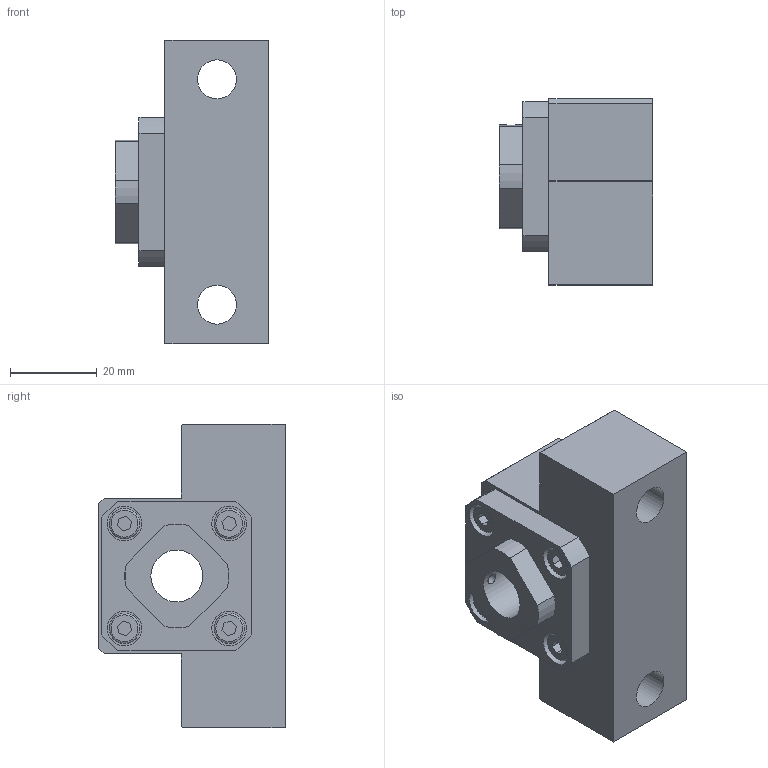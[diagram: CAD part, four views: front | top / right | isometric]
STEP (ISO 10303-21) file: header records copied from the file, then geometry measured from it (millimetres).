
FILE_DESCRIPTION(/* description */ (''),/* implementation_level */ '2;1');
FILE_NAME(/* name */ 'D:\Опора винта EK 01.000\Модели\Опора винта EK12 01.00.stp',/* time_stamp */ '2017-01-27T14:20:53+03:00',/* author */ ('t1'),/* organization */ ('TraceParts S.A.'),/* preprocessor_version */ 'ST-DEVELOPER v16.1',/* originating_system */ 'Autodesk Inventor 2016',/* authorisation */ '');
FILE_SCHEMA (('AUTOMOTIVE_DESIGN { 1 0 10303 214 3 1 1 }'));
Length unit declared in the file: millimetre
Products named in the file (1): Опора винта 
EK12 01.00
Bounding box: 35.5 x 43 x 70 mm (x, y, z)
Volume: 58020 mm3; surface area: 15301.4 mm2
Topology: 1 solids, 1 shells, 133 faces, 316 edges, 211 vertices
Faces by surface type: plane 96, cylinder 28, torus 8, cone 1
Full cylindrical faces by diameter (mm): 2.459 x1, 7 x8, 8 x8, 9 x2, 12 x1
Entity records: 3713 total; most frequent: CARTESIAN_POINT 698, DIRECTION 606, ORIENTED_EDGE 556, EDGE_CURVE 278, LINE 212, VECTOR 212, VERTEX_POINT 202, AXIS2_PLACEMENT_3D 197
